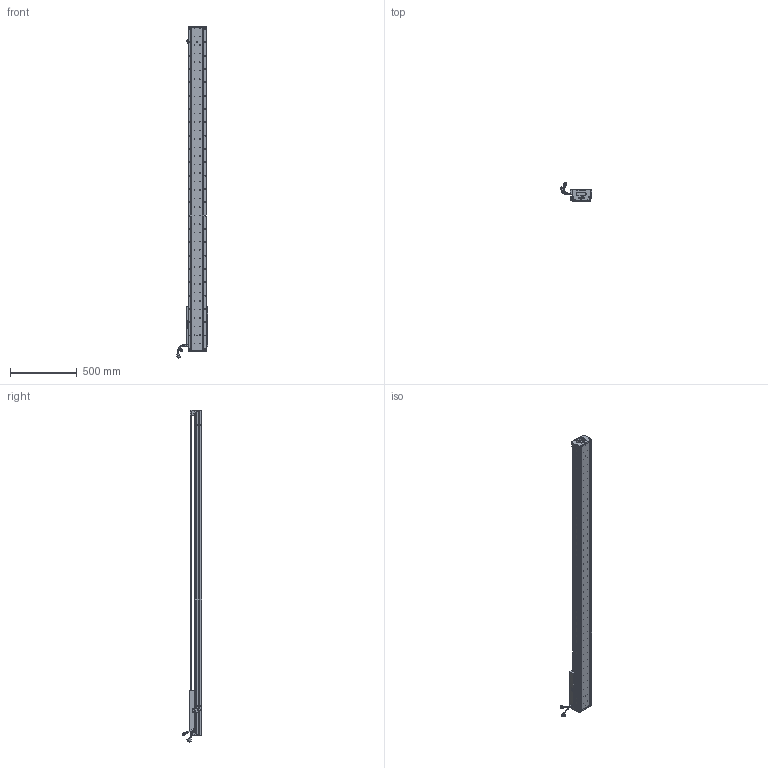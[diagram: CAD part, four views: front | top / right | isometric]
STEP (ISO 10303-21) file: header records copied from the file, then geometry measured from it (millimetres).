
FILE_DESCRIPTION (( 'STEP AP203' ), '1' );
FILE_NAME ('Z4-RY140D-1-L500-B-K.SLDASM_2050.step', '2021-05-17T08:18:24', ( '盈信电脑' ), ( '东莞市道滘镇水果街19号' ), 'SwSTEP 2.0', 'SolidWorks 2016', '' );
FILE_SCHEMA (( 'CONFIG_CONTROL_DESIGN' ));
Length unit declared in the file: millimetre
Products named in the file (36): SCALE; SCREW-M1.7-1; SCREW-M1.6; SCREW-M1.6-1; SCREW-M1.7; 詩湍奻揤裔; SCREW-M1.6-2; PSLH080_PSLF2; SEAL; Z4-RY140圉猾敕臏賑輸(21遴); HARNESS-Part-2; HOLDER0; 榋妏寠巭燃_暯_M2_2; SEAL-Part-1; 詩湍狟揤裔; SCALE-Part-1; Z-RY140感应器672光电感应片; COVER-Part-1; HARNESS; 覜茼ん672; SCREW-M1.6-3; Z4-RY140-L500詩湍100mm遵_2050; 140雄赽晤鎢ん堤盄; HARNESS-Part-1; LABEL; 140蚥薯蝶輸; Z4-RY140-L500直线电机模组底座_2050; 080黍杅芛假蚾釱21遴; COVER; PBU_SHEET; SCALE-Part-2; Z4-RY140D-1-L500-B-K.SLDASM_2050; SHIELDPLATE; LABEL-Part-1; 140-Z-臏賑輸盄裔(21遴); Z-140詩湍傷裔啣
Assembly tree (41 placements, depth 4):
  Z4-RY140D-1-L500-B-K.SLDASM_2050
    Z4-RY140-L500直线电机模组底座_2050
    Z-RY140感应器672光电感应片
    Z4-RY140圉猾敕臏賑輸(21遴)
    覜茼ん672  x3
    Z4-RY140-L500詩湍100mm遵_2050
    PSLH080_PSLF2
      SCALE
        SCALE-Part-1
        SCALE-Part-2
      HARNESS
        HARNESS-Part-1
        HARNESS-Part-2
      LABEL
        LABEL-Part-1
      COVER
        COVER-Part-1
      SEAL
        SEAL-Part-1
      榋妏寠巭燃_暯_M2_2
      SHIELDPLATE
      SCREW-M1.7
      SCREW-M1.7-1
      PBU_SHEET
      SCREW-M1.6
      SCREW-M1.6-1
      SCREW-M1.6-2
      SCREW-M1.6-3
      HOLDER0
    080黍杅芛假蚾釱21遴
    140-Z-臏賑輸盄裔(21遴)
    Z-140詩湍傷裔啣  x2
    詩湍狟揤裔  x2
    詩湍奻揤裔  x2
    140蚥薯蝶輸  x2
    140雄赽晤鎢ん堤盄
Bounding box: 239.84 x 143.88 x 2490.87 mm (x, y, z)
Volume: 8244651.3 mm3; surface area: 2128063 mm2
Topology: 36 solids, 36 shells, 4054 faces, 11012 edges, 6977 vertices
Faces by surface type: cylinder 2182, plane 1356, cone 394, torus 69, bspline 53
Entity records: 128232 total; most frequent: CARTESIAN_POINT 36083, ORIENTED_EDGE 18960, DIRECTION 17604, EDGE_CURVE 9480, AXIS2_PLACEMENT_3D 6546, VERTEX_POINT 6145, VECTOR 4512, LINE 4512
